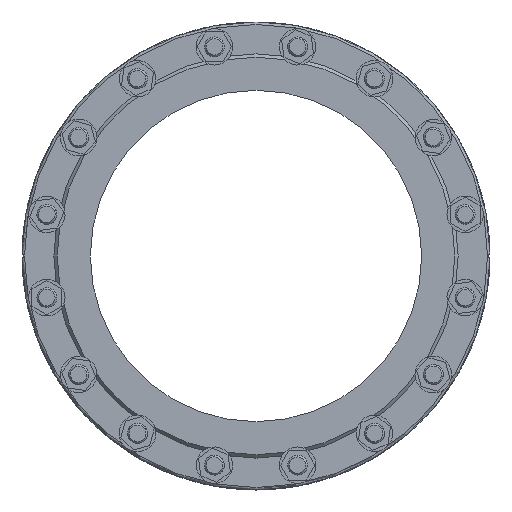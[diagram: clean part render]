
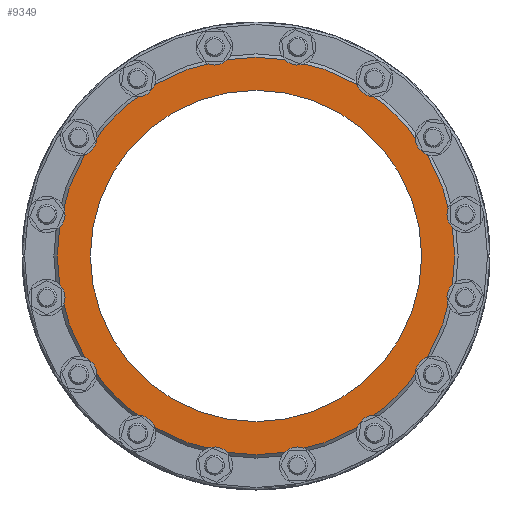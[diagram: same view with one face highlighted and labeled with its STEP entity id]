
A CAD part, left-side view. The second image highlights one B-rep face of the part: STEP entity #9349.
In plain terms, the highlighted planar face has unit normal (-1, 0, 0).
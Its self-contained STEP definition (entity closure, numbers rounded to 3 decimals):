
#2049 = EDGE_LOOP ( 'NONE', ( #13838 ) ) ;
#2586 = CIRCLE ( 'NONE', #19230, 200. ) ;
#3525 = DIRECTION ( 'NONE',  ( 0., 0., 1. ) ) ;
#4250 = DIRECTION ( 'NONE',  ( 0., 0., -1. ) ) ;
#4335 = VERTEX_POINT ( 'NONE', #21246 ) ;
#5643 = DIRECTION ( 'NONE',  ( 1., 0., 0. ) ) ;
#6084 = DIRECTION ( 'NONE',  ( 1., 0., 0. ) ) ;
#8338 = PLANE ( 'NONE',  #15188 ) ;
#9310 = DIRECTION ( 'NONE',  ( 0., 0., -1. ) ) ;
#9349 = ADVANCED_FACE ( 'NONE', ( #14419, #12425 ), #8338, .F. ) ;
#9644 = EDGE_CURVE ( 'NONE', #4335, #4335, #2586, .T. ) ;
#10447 = CARTESIAN_POINT ( 'NONE',  ( -63., 0., 240. ) ) ;
#12425 = FACE_OUTER_BOUND ( 'NONE', #16806, .T. ) ;
#13838 = ORIENTED_EDGE ( 'NONE', *, *, #9644, .T. ) ;
#14419 = FACE_BOUND ( 'NONE', #2049, .T. ) ;
#14669 = VERTEX_POINT ( 'NONE', #10447 ) ;
#15188 = AXIS2_PLACEMENT_3D ( 'NONE', #20886, #6084, #4250 ) ;
#16806 = EDGE_LOOP ( 'NONE', ( #24262 ) ) ;
#18601 = CARTESIAN_POINT ( 'NONE',  ( -63., 0., 0. ) ) ;
#18709 = CIRCLE ( 'NONE', #20506, 240. ) ;
#19230 = AXIS2_PLACEMENT_3D ( 'NONE', #26621, #5643, #9310 ) ;
#20506 = AXIS2_PLACEMENT_3D ( 'NONE', #18601, #26889, #3525 ) ;
#20886 = CARTESIAN_POINT ( 'NONE',  ( -63., 200., 0. ) ) ;
#21246 = CARTESIAN_POINT ( 'NONE',  ( -63., 0., -200. ) ) ;
#24262 = ORIENTED_EDGE ( 'NONE', *, *, #25625, .T. ) ;
#25625 = EDGE_CURVE ( 'NONE', #14669, #14669, #18709, .T. ) ;
#26621 = CARTESIAN_POINT ( 'NONE',  ( -63., 0., 0. ) ) ;
#26889 = DIRECTION ( 'NONE',  ( -1., 0., 0. ) ) ;
